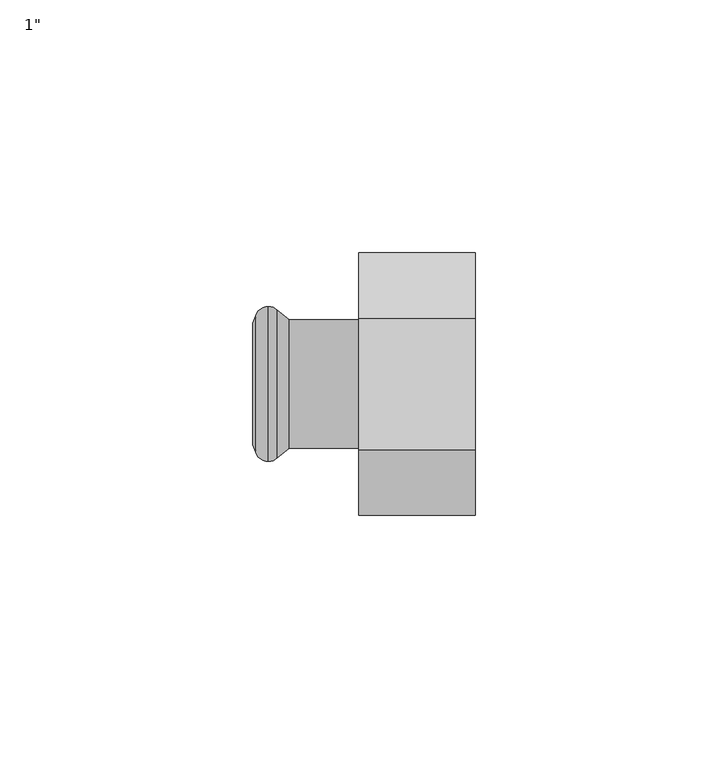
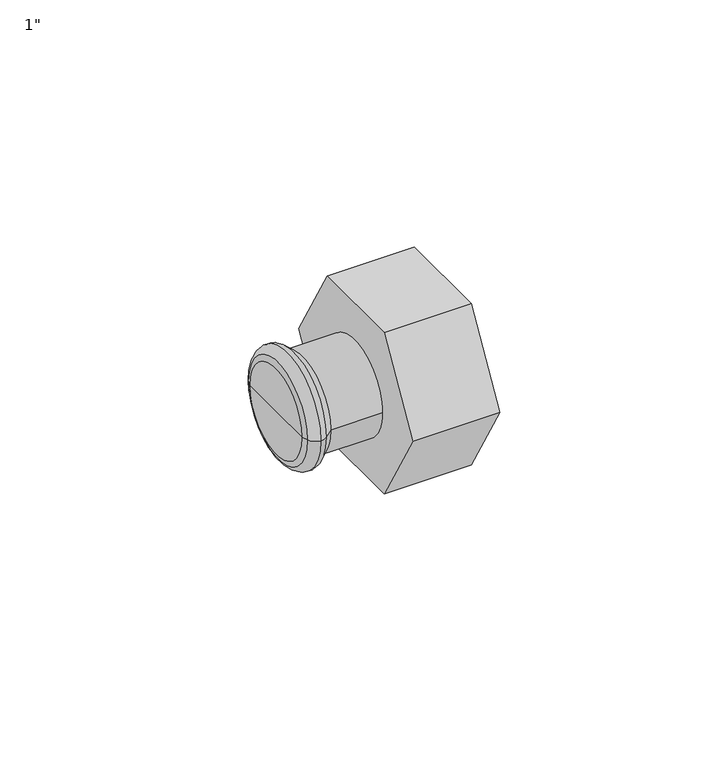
"""IFC4 building model written with IfcOpenShell, lengths in millimetres: pipe fitting geometry."""

from ifc_helpers import new_model, si_unit, point, frame, origin, place, context, project, spatial, polyline, circle_curve, ellipse_curve, trimmed, outline, extrude, source, transform, mapped, element, save
from ifc_brep_helpers import plane_surface, cylinder_surface, revolved_surface, advanced_brep


def pipe_fitting_2f519a32(model_context):
    return source(origin(), model_context, "Body", "SolidModel", [
        extrude(outline(polyline([(-25.9807621, 0.0), (-12.9903811, 22.5), (12.9903811, 22.5), (25.9807621, 0.0), (12.9903811, -22.5), (-12.9903811, -22.5), (-25.9807621, 0.0)])), frame((0.0, 0.0, 0.0), z_axis=(1.0, 0.0, 0.0), x_axis=(0.0, 1.0, 0.0)), (0.0, 0.0, 1.0), 23.0),
        advanced_brep(
        [(-13.7838092, -12.7, 0.0), (-13.7838092, 12.7, 0.0), (0.0, 12.7, 0.0), (0.0, -12.7, 0.0), (-16.0922627, -14.6370225, 0.0), (-16.0922627, 14.6370225, 0.0), (-17.8921278, -15.325, 0.0), (-17.8921278, 15.325, 0.0), (-20.432052, -13.5484544, 0.0), (-20.432052, 13.5484544, 0.0), (-21.0, -11.9880302, 0.0), (-21.0, 11.9880302, 0.0), (-21.0, 0.0, 0.0), (0.0, 0.0, 0.0)],
        [
            (0, 1, circle_curve(frame((-13.7838092, 0.0, 0.0), z_axis=(1.0, 0.0, 0.0), x_axis=(0.0, 1.0, 0.0)), 12.7)),
            (1, 2),
            (2, 3, circle_curve(frame((0.0, 0.0, 0.0), z_axis=(-1.0, 0.0, 0.0), x_axis=(0.0, 1.0, 0.0)), 12.7)),
            (3, 0),
            (1, 0, circle_curve(frame((-13.7838092, 0.0, 0.0), z_axis=(1.0, 0.0, 0.0), x_axis=(0.0, 1.0, 0.0)), 12.7)),
            (3, 2, circle_curve(frame((0.0, 0.0, 0.0), z_axis=(-1.0, 0.0, 0.0), x_axis=(0.0, 1.0, 0.0)), 12.7)),
            (4, 5, circle_curve(frame((-16.0922627, 0.0, 0.0), z_axis=(1.0, 0.0, 0.0), x_axis=(0.0, 1.0, 0.0)), 14.6370225)),
            (5, 1),
            (0, 4),
            (5, 4, circle_curve(frame((-16.0922627, 0.0, 0.0), z_axis=(1.0, 0.0, 0.0), x_axis=(0.0, 1.0, 0.0)), 14.6370225)),
            (6, 7, circle_curve(frame((-17.8921278, 0.0, 0.0), z_axis=(1.0, 0.0, 0.0), x_axis=(0.0, 1.0, 0.0)), 15.325)),
            (7, 5, circle_curve(frame((-17.8935049, 12.6230333, 0.0), z_axis=(0.0, 0.0, -1.0), x_axis=(1.0, 0.0, 0.0)), 2.701967)),
            (4, 6, circle_curve(frame((-17.8935049, -12.6230333, 0.0), z_axis=(0.0, 0.0, -1.0), x_axis=(1.0, 0.0, 0.0)), 2.701967)),
            (7, 6, circle_curve(frame((-17.8921278, 0.0, 0.0), z_axis=(1.0, 0.0, 0.0), x_axis=(0.0, 1.0, 0.0)), 15.325)),
            (8, 9, circle_curve(frame((-20.432052, 0.0, 0.0), z_axis=(1.0, 0.0, 0.0), x_axis=(0.0, 1.0, 0.0)), 13.5484544)),
            (9, 7, circle_curve(frame((-17.89488, 12.6249993, 0.0), z_axis=(0.0, 0.0, -1.0), x_axis=(1.0, 0.0, 0.0)), 2.7000021)),
            (6, 8, circle_curve(frame((-17.89488, -12.6249993, 0.0), z_axis=(0.0, 0.0, -1.0), x_axis=(1.0, 0.0, 0.0)), 2.7000021)),
            (9, 8, circle_curve(frame((-20.432052, 0.0, 0.0), z_axis=(1.0, 0.0, 0.0), x_axis=(0.0, 1.0, 0.0)), 13.5484544)),
            (10, 11, circle_curve(frame((-21.0, 0.0, 0.0), z_axis=(1.0, 0.0, 0.0), x_axis=(0.0, 1.0, 0.0)), 11.9880302)),
            (11, 9),
            (8, 10),
            (11, 10, circle_curve(frame((-21.0, 0.0, 0.0), z_axis=(1.0, 0.0, 0.0), x_axis=(0.0, 1.0, 0.0)), 11.9880302)),
            (12, 11),
            (10, 12),
            (2, 13),
            (13, 3),
        ],
        [
            cylinder_surface(frame((1351.742668, 0.0, 0.0), z_axis=(-1.0, 0.0, 0.0), x_axis=(0.0, 1.0, 0.0)), 12.7),
            revolved_surface(polyline([(-13.7838092, 12.7, 0.0), (-16.0922627, 14.6370225, 0.0)]), (1351.742668, 0.0, 0.0), (-1.0, 0.0, 0.0)),
            revolved_surface(trimmed(ellipse_curve(frame((-17.8935049, 12.6230333, 0.0), z_axis=(0.0, 0.0, 1.0), x_axis=(1.0, 0.0, 0.0)), 2.701967, 2.701967), [point((-16.0922627, 14.6370225, 0.0))], [point((-17.8921278, 15.325, 0.0))], True, "CARTESIAN"), (1351.742668, 0.0, 0.0), (-1.0, 0.0, 0.0)),
            revolved_surface(trimmed(ellipse_curve(frame((-17.89488, 12.6249993, 0.0), z_axis=(0.0, 0.0, 1.0), x_axis=(1.0, 0.0, 0.0)), 2.7000021, 2.7000021), [point((-17.8921278, 15.325, 0.0))], [point((-20.432052, 13.5484544, 0.0))], True, "CARTESIAN"), (1351.742668, 0.0, 0.0), (-1.0, 0.0, 0.0)),
            revolved_surface(polyline([(-20.432052, 13.5484544, 0.0), (-21.0, 11.9880302, 0.0)]), (1351.742668, 0.0, 0.0), (-1.0, 0.0, 0.0)),
            plane_surface(frame((-21.0, 0.0, 0.0), z_axis=(-1.0, 0.0, 0.0), x_axis=(0.0, 1.0, 0.0))),
            plane_surface(frame((0.0, 0.0, 0.0), z_axis=(1.0, 0.0, 0.0), x_axis=(0.0, 1.0, 0.0))),
        ],
        [
            (0, [[1, 2, 3, 4]]),
            (0, [[5, -4, 6, -2]]),
            (1, [[7, 8, -1, 9]]),
            (1, [[10, -9, -5, -8]]),
            (2, [[11, 12, -7, 13]]),
            (2, [[14, -13, -10, -12]]),
            (3, [[15, 16, -11, 17]]),
            (3, [[18, -17, -14, -16]]),
            (4, [[19, 20, -15, 21]]),
            (4, [[22, -21, -18, -20]]),
            (5, [[23, -19, 24]]),
            (5, [[-24, -22, -23]]),
            (6, [[-3, 25, 26]]),
            (6, [[-6, -26, -25]]),
        ],
    ),
    ])


if __name__ == "__main__":
    model = new_model("IFC4")
    model_context = context("Model", 3, world=origin())
    ifc_project = project(units=[si_unit("LENGTHUNIT", "METRE", prefix="MILLI")], contexts=[model_context])
    site = spatial("IfcSite", under=ifc_project)
    building = spatial("IfcBuilding", under=site)
    placement = place(None, origin())
    pipe_fitting_shape = pipe_fitting_2f519a32(model_context)
    element("IfcPipeFitting", 1, ObjectType="KAN-therm Inox złączka z GW : 1\"", at=placement, inside=building, context=model_context, shape_type="MappedRepresentation", body=[
        mapped(pipe_fitting_shape, transform((0.0, 0.0, 0.0), x_axis=(1.0, 0.0, 0.0), y_axis=(0.0, 1.0, 0.0), z_axis=(0.0, 0.0, 1.0))),
    ])
    save(model, "model.ifc")
